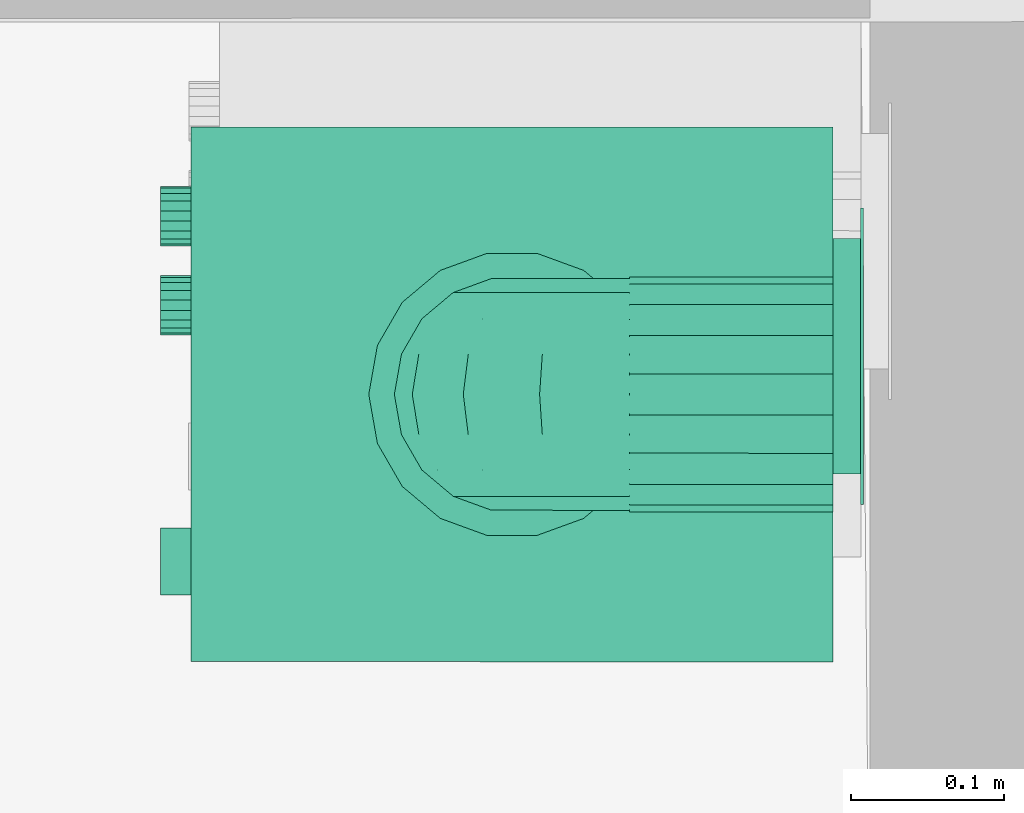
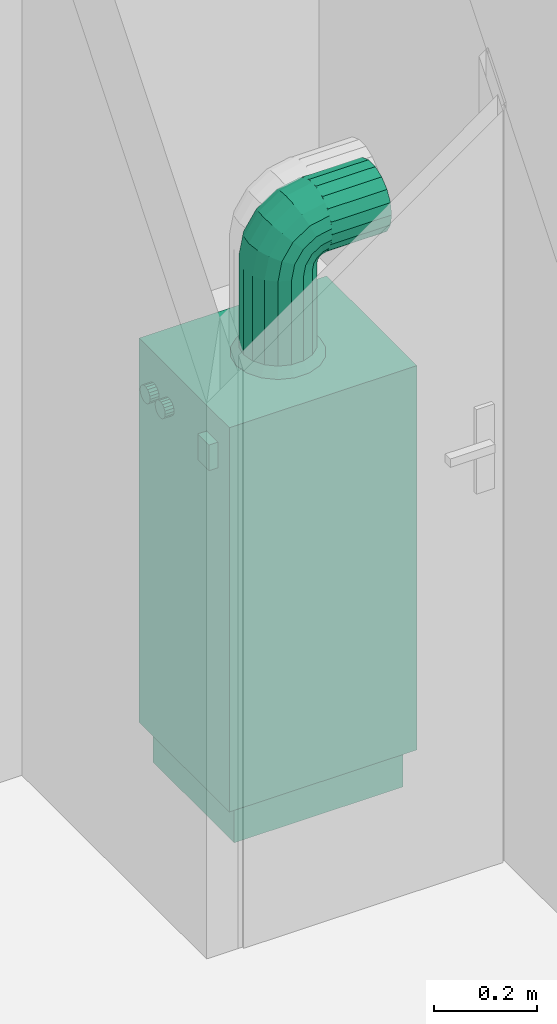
# One storey, part 122 of 171: 1 distribution element.
"""IFC2X3 building model written with IfcOpenShell, lengths in millimetres."""

from ifc_helpers import new_model, entity, si_unit, converted_unit, derived_unit, money_unit, direction, frame, origin_with_axes, place, context, subcontext, project, spatial, open_shell, faceted_brep, surface_model, source, transform, mapped, type_object, element, save


model = new_model("IFC2X3")

# Units and contexts
model_context = context("Model", 3, precision=0.01, world=origin_with_axes(), true_north=direction((0.0, 1.0)))
body_context = subcontext(model_context, "Body", "Model", "MODEL_VIEW")
ifc_project = project(units=[si_unit("LENGTHUNIT", "METRE", prefix="MILLI"), si_unit("AREAUNIT", "SQUARE_METRE"), si_unit("VOLUMEUNIT", "CUBIC_METRE"), converted_unit("PLANEANGLEUNIT", "DEGREE", entity("IfcPlaneAngleMeasure", 0.0174532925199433), si_unit("PLANEANGLEUNIT", "RADIAN"), dimensions=[0, 0, 0, 0, 0, 0, 0]), money_unit("USD"), converted_unit("TIMEUNIT", "Year", entity("IfcTimeMeasure", 31557600.0), si_unit("TIMEUNIT", "SECOND"), dimensions=[0, 0, 1, 0, 0, 0, 0]), si_unit("MASSUNIT", "GRAM", prefix="KILO"), si_unit("THERMODYNAMICTEMPERATUREUNIT", "DEGREE_CELSIUS"), si_unit("LUMINOUSINTENSITYUNIT", "LUMEN"), si_unit("ENERGYUNIT", "JOULE", prefix="MEGA"), derived_unit("THERMALCONDUCTANCEUNIT", [(si_unit("POWERUNIT", "WATT"), 1), (si_unit("LENGTHUNIT", "METRE"), -1), (si_unit("THERMODYNAMICTEMPERATUREUNIT", "KELVIN"), -1)]), derived_unit("SPECIFICHEATCAPACITYUNIT", [(si_unit("ENERGYUNIT", "JOULE"), 1), (si_unit("MASSUNIT", "GRAM", prefix="KILO"), -1), (si_unit("THERMODYNAMICTEMPERATUREUNIT", "KELVIN"), -1)]), derived_unit("MASSDENSITYUNIT", [(si_unit("MASSUNIT", "GRAM", prefix="KILO"), 1), (si_unit("VOLUMEUNIT", "CUBIC_METRE"), -1)])], contexts=[model_context])

# Site, building, storey
site_placement = place(None, origin_with_axes())
site = spatial("IfcSite", under=ifc_project, at=site_placement, Name="Site", CompositionType="ELEMENT")
building_placement = place(site_placement, origin_with_axes())
building = spatial("IfcBuilding", under=site, at=building_placement, Name="Bâtiment", CompositionType="ELEMENT")
storey_placement = place(building_placement, frame((0.0, 0.0, 3000.0), z_axis=(0.0, 0.0, 1.0), x_axis=(1.0, 0.0, 0.0)))
storey = spatial("IfcBuildingStorey", under=building, at=storey_placement, Name="rdc", CompositionType="ELEMENT", Elevation=3000.0)

# Distribution element
distribution_element_type = type_object("IfcDistributionElementType", Name="Chaudière à gaz 27")
shared_shape = source(origin_with_axes(), body_context, "Body", "SurfaceModel", [
    surface_model("IfcShellBasedSurfaceModel", [(-200.0, 420.0, 34.90909090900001), (-200.0, 438.0, 34.90909090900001), (-180.0709335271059, 438.0, 37.53280228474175), (-180.0709335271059, 420.0, 37.53280228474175), (-219.9290664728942, 420.0, 37.53280228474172), (-219.9290664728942, 438.0, 37.53280228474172), (-161.5, 438.0, 45.22513481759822), (-161.5, 420.0, 45.22513481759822), (-238.5000000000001, 420.0, 45.22513481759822), (-238.5000000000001, 438.0, 45.22513481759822), (-145.5527778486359, 438.0, 57.46186875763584), (-145.5527778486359, 420.0, 57.46186875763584), (-254.4472221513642, 420.0, 57.46186875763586), (-254.4472221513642, 438.0, 57.46186875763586), (-133.3160439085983, 438.0, 73.409090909), (-133.3160439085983, 420.0, 73.409090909), (-266.6839560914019, 420.0, 73.40909090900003), (-266.6839560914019, 438.0, 73.40909090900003), (-125.6237113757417, 438.0, 91.9800244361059), (-125.6237113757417, 420.0, 91.9800244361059), (-274.3762886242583, 420.0, 91.98002443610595), (-274.3762886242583, 438.0, 91.98002443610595), (-123.0, 438.0, 111.909090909), (-123.0, 420.0, 111.909090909), (-277.0, 420.0, 111.909090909), (-277.0, 438.0, 111.909090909), (-125.6237113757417, 438.0, 131.8381573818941), (-125.6237113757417, 420.0, 131.8381573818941), (-274.3762886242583, 420.0, 131.8381573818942), (-274.3762886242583, 438.0, 131.8381573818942), (-133.3160439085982, 438.0, 150.409090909), (-133.3160439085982, 420.0, 150.409090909), (-266.6839560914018, 420.0, 150.4090909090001), (-266.6839560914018, 438.0, 150.4090909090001), (-145.5527778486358, 438.0, 166.3563130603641), (-145.5527778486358, 420.0, 166.3563130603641), (-254.4472221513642, 420.0, 166.3563130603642), (-254.4472221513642, 438.0, 166.3563130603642), (-161.5, 438.0, 178.5930470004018), (-161.5, 420.0, 178.5930470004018), (-238.5, 420.0, 178.5930470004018), (-238.5, 438.0, 178.5930470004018), (-180.0709335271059, 438.0, 186.2853795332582), (-180.0709335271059, 420.0, 186.2853795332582), (-219.929066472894, 420.0, 186.2853795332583), (-219.929066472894, 438.0, 186.2853795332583), (-200.0, 438.0, 188.909090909), (-200.0, 420.0, 188.909090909)], [open_shell([[[0, 1, 2, 3]], [[4, 5, 1, 0]], [[3, 2, 6, 7]], [[8, 9, 5, 4]], [[7, 6, 10, 11]], [[12, 13, 9, 8]], [[11, 10, 14, 15]], [[16, 17, 13, 12]], [[15, 14, 18, 19]], [[20, 21, 17, 16]], [[19, 18, 22, 23]], [[24, 25, 21, 20]], [[23, 22, 26, 27]], [[28, 29, 25, 24]], [[27, 26, 30, 31]], [[32, 33, 29, 28]], [[31, 30, 34, 35]], [[36, 37, 33, 32]], [[35, 34, 38, 39]], [[40, 41, 37, 36]], [[39, 38, 42, 43]], [[44, 45, 41, 40]], [[43, 42, 46, 47]], [[47, 46, 45, 44]]])]),
    faceted_brep([(-200.0, 438.0, 14.909090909), (-200.0, 440.0, 14.909090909), (-174.8945526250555, 440.0, 18.21428575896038), (-174.8945526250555, 438.0, 18.21428575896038), (-225.1054473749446, 438.0, 18.21428575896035), (-225.1054473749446, 440.0, 18.21428575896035), (-248.5000000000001, 440.0, 27.90462674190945), (-268.5893577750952, 440.0, 43.31973313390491), (-284.0044641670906, 440.0, 63.40909090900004), (-293.6948051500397, 440.0, 86.80364353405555), (-297.0000000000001, 440.0, 111.909090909), (-293.6948051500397, 440.0, 137.0145382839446), (-284.0044641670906, 440.0, 160.4090909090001), (-268.5893577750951, 440.0, 180.4984486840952), (-248.5, 440.0, 195.9135550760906), (-225.1054473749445, 440.0, 205.6038960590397), (-199.9999999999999, 440.0, 208.909090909), (-174.8945526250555, 440.0, 205.6038960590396), (-151.5, 440.0, 195.9135550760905), (-131.4106422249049, 440.0, 180.4984486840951), (-115.9955358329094, 440.0, 160.409090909), (-106.3051948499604, 440.0, 137.0145382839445), (-103.0, 440.0, 111.909090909), (-106.3051948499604, 440.0, 86.80364353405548), (-115.9955358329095, 440.0, 63.40909090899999), (-131.4106422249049, 440.0, 43.31973313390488), (-151.5, 440.0, 27.90462674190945), (-200.0, 440.0, 34.90909090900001), (-180.0709335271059, 440.0, 37.53280228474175), (-161.5, 440.0, 45.22513481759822), (-145.5527778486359, 440.0, 57.46186875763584), (-133.3160439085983, 440.0, 73.409090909), (-125.6237113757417, 440.0, 91.9800244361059), (-123.0, 440.0, 111.909090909), (-125.6237113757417, 440.0, 131.8381573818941), (-133.3160439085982, 440.0, 150.409090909), (-145.5527778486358, 440.0, 166.3563130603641), (-161.5, 440.0, 178.5930470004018), (-180.0709335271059, 440.0, 186.2853795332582), (-200.0, 440.0, 188.909090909), (-219.929066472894, 440.0, 186.2853795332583), (-238.5, 440.0, 178.5930470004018), (-254.4472221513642, 440.0, 166.3563130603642), (-266.6839560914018, 440.0, 150.4090909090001), (-274.3762886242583, 440.0, 131.8381573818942), (-277.0, 440.0, 111.909090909), (-274.3762886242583, 440.0, 91.98002443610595), (-266.6839560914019, 440.0, 73.40909090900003), (-254.4472221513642, 440.0, 57.46186875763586), (-238.5000000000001, 440.0, 45.22513481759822), (-219.9290664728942, 440.0, 37.53280228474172), (-151.5, 438.0, 27.90462674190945), (-131.4106422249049, 438.0, 43.31973313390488), (-115.9955358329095, 438.0, 63.40909090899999), (-106.3051948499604, 438.0, 86.80364353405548), (-103.0, 438.0, 111.909090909), (-106.3051948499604, 438.0, 137.0145382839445), (-115.9955358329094, 438.0, 160.409090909), (-131.4106422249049, 438.0, 180.4984486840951), (-151.5, 438.0, 195.9135550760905), (-174.8945526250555, 438.0, 205.6038960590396), (-199.9999999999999, 438.0, 208.909090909), (-225.1054473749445, 438.0, 205.6038960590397), (-248.5, 438.0, 195.9135550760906), (-268.5893577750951, 438.0, 180.4984486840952), (-284.0044641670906, 438.0, 160.4090909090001), (-293.6948051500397, 438.0, 137.0145382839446), (-297.0000000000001, 438.0, 111.909090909), (-293.6948051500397, 438.0, 86.80364353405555), (-284.0044641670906, 438.0, 63.40909090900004), (-268.5893577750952, 438.0, 43.31973313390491), (-248.5000000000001, 438.0, 27.90462674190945), (-200.0, 438.0, 34.90909090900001), (-219.9290664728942, 438.0, 37.53280228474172), (-238.5000000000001, 438.0, 45.22513481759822), (-254.4472221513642, 438.0, 57.46186875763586), (-266.6839560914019, 438.0, 73.40909090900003), (-274.3762886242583, 438.0, 91.98002443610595), (-277.0, 438.0, 111.909090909), (-274.3762886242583, 438.0, 131.8381573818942), (-266.6839560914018, 438.0, 150.4090909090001), (-254.4472221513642, 438.0, 166.3563130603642), (-238.5, 438.0, 178.5930470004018), (-219.929066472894, 438.0, 186.2853795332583), (-200.0, 438.0, 188.909090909), (-180.0709335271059, 438.0, 186.2853795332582), (-161.5, 438.0, 178.5930470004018), (-145.5527778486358, 438.0, 166.3563130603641), (-133.3160439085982, 438.0, 150.409090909), (-125.6237113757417, 438.0, 131.8381573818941), (-123.0, 438.0, 111.909090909), (-125.6237113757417, 438.0, 91.9800244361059), (-133.3160439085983, 438.0, 73.409090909), (-145.5527778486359, 438.0, 57.46186875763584), (-161.5, 438.0, 45.22513481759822), (-180.0709335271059, 438.0, 37.53280228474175)], [[[0, 1, 2, 3]], [[4, 5, 1, 0]], [[1, 5, 6, 7, 8, 9, 10, 11, 12, 13, 14, 15, 16, 17, 18, 19, 20, 21, 22, 23, 24, 25, 26, 2], [27, 28, 29, 30, 31, 32, 33, 34, 35, 36, 37, 38, 39, 40, 41, 42, 43, 44, 45, 46, 47, 48, 49, 50]], [[3, 2, 26, 51]], [[0, 3, 51, 52, 53, 54, 55, 56, 57, 58, 59, 60, 61, 62, 63, 64, 65, 66, 67, 68, 69, 70, 71, 4], [72, 73, 74, 75, 76, 77, 78, 79, 80, 81, 82, 83, 84, 85, 86, 87, 88, 89, 90, 91, 92, 93, 94, 95]], [[71, 6, 5, 4]], [[70, 7, 6, 71]], [[69, 8, 7, 70]], [[68, 9, 8, 69]], [[67, 10, 9, 68]], [[66, 11, 10, 67]], [[65, 12, 11, 66]], [[64, 13, 12, 65]], [[63, 14, 13, 64]], [[62, 15, 14, 63]], [[61, 16, 15, 62]], [[60, 17, 16, 61]], [[59, 18, 17, 60]], [[58, 19, 18, 59]], [[57, 20, 19, 58]], [[56, 21, 20, 57]], [[55, 22, 21, 56]], [[54, 23, 22, 55]], [[53, 24, 23, 54]], [[52, 25, 24, 53]], [[51, 26, 25, 52]], [[95, 28, 27, 72]], [[94, 29, 28, 95]], [[93, 30, 29, 94]], [[92, 31, 30, 93]], [[91, 32, 31, 92]], [[90, 33, 32, 91]], [[89, 34, 33, 90]], [[88, 35, 34, 89]], [[87, 36, 35, 88]], [[86, 37, 36, 87]], [[85, 38, 37, 86]], [[84, 39, 38, 85]], [[83, 40, 39, 84]], [[82, 41, 40, 83]], [[81, 42, 41, 82]], [[80, 43, 42, 81]], [[79, 44, 43, 80]], [[78, 45, 44, 79]], [[77, 46, 45, 78]], [[76, 47, 46, 77]], [[75, 48, 47, 76]], [[74, 49, 48, 75]], [[73, 50, 49, 74]], [[72, 27, 50, 73]]]),
    faceted_brep([(-332.5, 21.0, 0.0), (-332.5, 399.0, 0.0), (-17.5, 399.0, 0.0), (-17.5, 21.0, 0.0), (-332.5, 21.0, 90.9090909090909), (-332.5, 399.0, 90.9090909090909), (-17.5, 399.0, 90.9090909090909), (-17.5, 21.0, 90.9090909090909)], [[[0, 1, 2, 3]], [[0, 4, 5, 1]], [[1, 5, 6, 2]], [[2, 6, 7, 3]], [[3, 7, 4, 0]], [[7, 6, 5, 4]]]),
    faceted_brep([(0.0, 420.0, 90.9090909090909), (-350.0, 420.0, 90.90909090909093), (-349.9999999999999, 420.0, 1000.0), (0.0, 420.0, 1000.0), (0.0, 0.0, 90.9090909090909), (-350.0, 0.0, 90.90909090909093), (-349.9999999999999, 0.0, 818.1818181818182), (-349.9999999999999, 21.0, 818.1818181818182), (-349.9999999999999, 21.0, 1000.0), (0.0, 21.0, 1000.0), (0.0, 21.0, 818.1818181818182), (0.0, 0.0, 818.1818181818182)], [[[0, 1, 2, 3]], [[4, 5, 1, 0]], [[1, 5, 6, 7, 8, 2]], [[3, 2, 8, 9]], [[0, 3, 9, 10, 11, 4]], [[11, 6, 5, 4]], [[10, 7, 6, 11]], [[9, 8, 7, 10]]]),
    faceted_brep([(-350.0, 0.0, 818.1818181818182), (-350.0, 21.0, 818.1818181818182), (0.0, 21.0, 818.1818181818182), (0.0, 0.0, 818.1818181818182), (-350.0, 0.0, 1000.0), (-350.0, 21.0, 1000.0), (0.0, 21.0, 1000.0), (0.0, 0.0, 1000.0)], [[[0, 1, 2, 3]], [[0, 4, 5, 1]], [[1, 5, 6, 2]], [[2, 6, 7, 3]], [[3, 7, 4, 0]], [[7, 6, 5, 4]]]),
    faceted_brep([(-251.6051342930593, 0.0, 902.4405174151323), (-252.7777777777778, 0.0, 909.0909090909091), (-251.6051342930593, 0.0, 915.741300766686), (-248.2286419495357, 0.0, 921.5895570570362), (-243.0555555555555, 0.0, 925.9302919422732), (-236.709825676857, 0.0, 928.2399487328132), (-229.9568409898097, 0.0, 928.2399487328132), (-223.6111111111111, 0.0, 925.9302919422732), (-218.438024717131, 0.0, 921.5895570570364), (-215.0615323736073, 0.0, 915.741300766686), (-213.8888888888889, 0.0, 909.0909090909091), (-215.0615323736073, 0.0, 902.4405174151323), (-218.438024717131, 0.0, 896.5922611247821), (-223.6111111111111, 0.0, 892.2515262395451), (-229.9568409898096, 0.0, 889.9418694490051), (-236.709825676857, 0.0, 889.9418694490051), (-243.0555555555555, 0.0, 892.2515262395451), (-248.2286419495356, 0.0, 896.592261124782), (-251.6051342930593, -19.99999999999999, 902.4405174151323), (-252.7777777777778, -19.99999999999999, 909.0909090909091), (-251.6051342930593, -19.99999999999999, 915.741300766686), (-248.2286419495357, -19.99999999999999, 921.5895570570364), (-243.0555555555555, -19.99999999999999, 925.9302919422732), (-236.709825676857, -19.99999999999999, 928.2399487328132), (-229.9568409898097, -19.99999999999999, 928.2399487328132), (-223.6111111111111, -19.99999999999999, 925.9302919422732), (-218.438024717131, -19.99999999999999, 921.5895570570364), (-215.0615323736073, -19.99999999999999, 915.741300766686), (-213.8888888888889, -19.99999999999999, 909.0909090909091), (-215.0615323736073, -19.99999999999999, 902.4405174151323), (-218.438024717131, -19.99999999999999, 896.5922611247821), (-223.6111111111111, -19.99999999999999, 892.2515262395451), (-229.9568409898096, -19.99999999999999, 889.9418694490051), (-236.709825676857, -19.99999999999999, 889.9418694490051), (-243.0555555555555, -19.99999999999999, 892.2515262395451), (-248.2286419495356, -19.99999999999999, 896.592261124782)], [[[0, 1, 2, 3, 4, 5, 6, 7, 8, 9, 10, 11, 12, 13, 14, 15, 16, 17]], [[0, 18, 19, 1]], [[1, 19, 20, 2]], [[2, 20, 21, 3]], [[3, 21, 22, 4]], [[4, 22, 23, 5]], [[5, 23, 24, 6]], [[6, 24, 25, 7]], [[7, 25, 26, 8]], [[8, 26, 27, 9]], [[9, 27, 28, 10]], [[10, 28, 29, 11]], [[11, 29, 30, 12]], [[12, 30, 31, 13]], [[13, 31, 32, 14]], [[14, 32, 33, 15]], [[15, 33, 34, 16]], [[16, 34, 35, 17]], [[17, 35, 18, 0]], [[18, 35, 34, 33, 32, 31, 30, 29, 28, 27, 26, 25, 24, 23, 22, 21, 20, 19]]]),
    faceted_brep([(-309.9384676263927, 0.0, 902.4405174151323), (-311.1111111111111, 0.0, 909.0909090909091), (-309.9384676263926, 0.0, 915.741300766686), (-306.561975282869, 0.0, 921.5895570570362), (-301.3888888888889, 0.0, 925.9302919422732), (-295.0431590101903, 0.0, 928.2399487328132), (-288.290174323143, 0.0, 928.2399487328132), (-281.9444444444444, 0.0, 925.9302919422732), (-276.7713580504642, 0.0, 921.5895570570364), (-273.3948657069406, 0.0, 915.741300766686), (-272.2222222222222, 0.0, 909.0909090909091), (-273.3948657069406, 0.0, 902.4405174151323), (-276.7713580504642, 0.0, 896.5922611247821), (-281.9444444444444, 0.0, 892.2515262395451), (-288.290174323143, 0.0, 889.9418694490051), (-295.0431590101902, 0.0, 889.9418694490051), (-301.3888888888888, 0.0, 892.2515262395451), (-306.561975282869, 0.0, 896.592261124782), (-309.9384676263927, -19.99999999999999, 902.4405174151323), (-311.1111111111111, -19.99999999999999, 909.0909090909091), (-309.9384676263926, -19.99999999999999, 915.741300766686), (-306.561975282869, -19.99999999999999, 921.5895570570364), (-301.3888888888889, -19.99999999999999, 925.9302919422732), (-295.0431590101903, -19.99999999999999, 928.2399487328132), (-288.290174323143, -19.99999999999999, 928.2399487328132), (-281.9444444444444, -19.99999999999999, 925.9302919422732), (-276.7713580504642, -19.99999999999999, 921.5895570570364), (-273.3948657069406, -19.99999999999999, 915.741300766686), (-272.2222222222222, -19.99999999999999, 909.0909090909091), (-273.3948657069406, -19.99999999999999, 902.4405174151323), (-276.7713580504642, -19.99999999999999, 896.5922611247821), (-281.9444444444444, -19.99999999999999, 892.2515262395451), (-288.290174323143, -19.99999999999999, 889.9418694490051), (-295.0431590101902, -19.99999999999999, 889.9418694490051), (-301.3888888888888, -19.99999999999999, 892.2515262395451), (-306.561975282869, -19.99999999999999, 896.592261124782)], [[[0, 1, 2, 3, 4, 5, 6, 7, 8, 9, 10, 11, 12, 13, 14, 15, 16, 17]], [[0, 18, 19, 1]], [[1, 19, 20, 2]], [[2, 20, 21, 3]], [[3, 21, 22, 4]], [[4, 22, 23, 5]], [[5, 23, 24, 6]], [[6, 24, 25, 7]], [[7, 25, 26, 8]], [[8, 26, 27, 9]], [[9, 27, 28, 10]], [[10, 28, 29, 11]], [[11, 29, 30, 12]], [[12, 30, 31, 13]], [[13, 31, 32, 14]], [[14, 32, 33, 15]], [[15, 33, 34, 16]], [[16, 34, 35, 17]], [[17, 35, 18, 0]], [[18, 35, 34, 33, 32, 31, 30, 29, 28, 27, 26, 25, 24, 23, 22, 21, 20, 19]]]),
    faceted_brep([(-87.5, 0.0, 878.7878787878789), (-87.5, 0.0, 939.3939393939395), (-43.75, 0.0, 939.3939393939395), (-43.75, 0.0, 878.7878787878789), (-87.5, -20.0, 878.7878787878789), (-87.5, -19.99999999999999, 939.3939393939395), (-43.75, -19.99999999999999, 939.3939393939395), (-43.75, -20.0, 878.7878787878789)], [[[0, 1, 2, 3]], [[0, 4, 5, 1]], [[1, 5, 6, 2]], [[2, 6, 7, 3]], [[3, 7, 4, 0]], [[7, 6, 5, 4]]]),
    surface_model("IfcShellBasedSurfaceModel", [(-148.6644489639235, 282.356331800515, 1220.0), (-148.6644489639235, 282.356331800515, 1020.0), (-175.0, 287.0, 1020.0), (-175.0, 287.0, 1220.0), (-125.5053540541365, 268.9854221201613, 1220.0), (-125.5053540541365, 268.9854221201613, 1020.0), (-142.9356115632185, 298.0961831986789, 1000.0), (-175.0, 303.7499999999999, 1000.0), (-201.3355510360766, 282.356331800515, 1020.0), (-201.3355510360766, 282.356331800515, 1220.0), (-108.3160439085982, 248.5, 1220.0), (-108.3160439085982, 248.5, 1020.0), (-114.7386615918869, 281.8166665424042, 1000.0), (-207.0643884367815, 298.0961831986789, 1000.0), (-224.4946459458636, 268.9854221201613, 1020.0), (-224.4946459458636, 268.9854221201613, 1220.0), (-99.16980301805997, 223.3709096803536, 1220.0), (-99.16980301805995, 223.3709096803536, 1020.0), (-93.81011839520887, 256.8749999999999, 1000.0), (-235.2613384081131, 281.8166665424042, 1000.0), (-241.6839560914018, 248.4999999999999, 1020.0), (-241.6839560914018, 248.4999999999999, 1220.0), (-99.16980301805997, 196.6290903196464, 1220.0), (-99.16980301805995, 196.6290903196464, 1020.0), (-82.6742731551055, 226.2795166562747, 1000.0), (-256.1898816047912, 256.8749999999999, 1000.0), (-250.83019698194, 223.3709096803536, 1020.0), (-250.8301969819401, 223.3709096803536, 1220.0), (-108.3160439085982, 171.5, 1220.0), (-108.3160439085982, 171.5, 1020.0), (-82.67427315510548, 193.7204833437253, 1000.0), (-267.3257268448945, 226.2795166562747, 1000.0), (-250.83019698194, 196.6290903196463, 1020.0), (-250.83019698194, 196.6290903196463, 1220.0), (-125.5053540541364, 151.0145778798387, 1220.0), (-125.5053540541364, 151.0145778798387, 1020.0), (-93.81011839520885, 163.125, 1000.0), (-267.3257268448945, 193.7204833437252, 1000.0), (-241.6839560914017, 171.4999999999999, 1020.0), (-241.6839560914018, 171.4999999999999, 1220.0), (-148.6644489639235, 137.643668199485, 1220.0), (-148.6644489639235, 137.643668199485, 1020.0), (-114.7386615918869, 138.1833334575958, 1000.0), (-256.1898816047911, 163.1249999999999, 1000.0), (-224.4946459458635, 151.0145778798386, 1020.0), (-224.4946459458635, 151.0145778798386, 1220.0), (-175.0, 133.0, 1220.0), (-175.0, 133.0, 1020.0), (-142.9356115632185, 121.9038168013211, 1000.0), (-235.261338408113, 138.1833334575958, 1000.0), (-201.3355510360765, 137.643668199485, 1020.0), (-201.3355510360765, 137.643668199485, 1220.0), (-175.0, 116.25, 1000.0), (-207.0643884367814, 121.9038168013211, 1000.0)], [open_shell([[[0, 1, 2, 3]], [[4, 5, 1, 0]], [[1, 6, 7, 2]], [[3, 2, 8, 9]], [[10, 11, 5, 4]], [[5, 12, 6, 1]], [[2, 7, 13, 8]], [[9, 8, 14, 15]], [[16, 17, 11, 10]], [[11, 18, 12, 5]], [[8, 13, 19, 14]], [[15, 14, 20, 21]], [[22, 23, 17, 16]], [[17, 24, 18, 11]], [[14, 19, 25, 20]], [[21, 20, 26, 27]], [[28, 29, 23, 22]], [[23, 30, 24, 17]], [[20, 25, 31, 26]], [[27, 26, 32, 33]], [[34, 35, 29, 28]], [[29, 36, 30, 23]], [[26, 31, 37, 32]], [[33, 32, 38, 39]], [[40, 41, 35, 34]], [[35, 42, 36, 29]], [[32, 37, 43, 38]], [[39, 38, 44, 45]], [[46, 47, 41, 40]], [[41, 48, 42, 35]], [[38, 43, 49, 44]], [[45, 44, 50, 51]], [[51, 50, 47, 46]], [[47, 52, 48, 41]], [[44, 49, 53, 50]], [[50, 53, 52, 47]]])]),
    faceted_brep([(-250.83019698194, 196.6290903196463, 1220.0), (-250.83019698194, 203.5081662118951, 1254.583449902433), (-250.83019698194, 228.2143857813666, 1244.349798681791), (-250.83019698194, 223.3709096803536, 1220.0), (-241.6839560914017, 171.4999999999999, 1220.0), (-241.6839560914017, 180.2919139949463, 1264.199936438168), (-250.83019698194, 223.0981169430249, 1283.901883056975), (-250.83019698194, 242.0074387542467, 1264.992561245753), (-241.6839560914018, 248.4999999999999, 1220.0), (-241.6839560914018, 251.4306379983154, 1234.733312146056), (-224.4946459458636, 268.9854221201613, 1220.0), (-201.3355510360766, 282.356331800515, 1220.0), (-175.0, 287.0, 1220.0), (-148.6644489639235, 282.356331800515, 1220.0), (-125.5053540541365, 268.9854221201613, 1220.0), (-108.3160439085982, 248.5, 1220.0), (-99.16980301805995, 223.3709096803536, 1220.0), (-99.16980301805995, 196.6290903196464, 1220.0), (-108.3160439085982, 171.5, 1220.0), (-125.5053540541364, 151.0145778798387, 1220.0), (-148.6644489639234, 137.643668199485, 1220.0), (-175.0, 132.9999999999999, 1220.0), (-201.3355510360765, 137.643668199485, 1220.0), (-224.4946459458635, 151.0145778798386, 1220.0), (-224.4946459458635, 161.3658517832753, 1272.039368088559), (-241.6839560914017, 205.3291667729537, 1301.670833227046), (-250.83019698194, 252.4165500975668, 1303.491833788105), (-250.83019698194, 262.6502013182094, 1278.785614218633), (-241.6839560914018, 259.7763889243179, 1247.223611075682), (-224.4946459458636, 270.3567002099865, 1226.893880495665), (-201.3355510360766, 282.7098099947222, 1221.777054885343), (-148.6644489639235, 282.7098099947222, 1221.777054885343), (-125.5053540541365, 270.3567002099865, 1226.893880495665), (-108.3160439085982, 251.4306379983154, 1234.733312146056), (-99.16980301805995, 228.2143857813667, 1244.349798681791), (-99.16980301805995, 203.5081662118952, 1254.583449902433), (-108.3160439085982, 180.2919139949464, 1264.199936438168), (-125.5053540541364, 161.3658517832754, 1272.039368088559), (-148.6644489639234, 149.0127419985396, 1277.15619369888), (-175.0, 144.7225519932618, 1278.933248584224), (-201.3355510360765, 149.0127419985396, 1277.15619369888), (-224.4946459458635, 190.8437858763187, 1316.156214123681), (-241.6839560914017, 242.8000635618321, 1326.708086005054), (-250.83019698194, 287.0000000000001, 1310.370909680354), (-250.83019698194, 287.0000000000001, 1283.629090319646), (-241.6839560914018, 272.266687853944, 1255.569362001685), (-224.4946459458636, 274.2617698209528, 1232.738230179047), (-201.3355510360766, 283.7164307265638, 1223.283569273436), (-148.6644489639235, 283.7164307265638, 1223.283569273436), (-125.5053540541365, 274.2617698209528, 1232.738230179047), (-108.3160439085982, 259.7763889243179, 1247.223611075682), (-99.16980301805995, 242.0074387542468, 1264.992561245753), (-99.16980301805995, 223.098116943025, 1283.901883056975), (-108.3160439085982, 205.3291667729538, 1301.670833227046), (-125.5053540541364, 190.8437858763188, 1316.156214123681), (-148.6644489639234, 181.3891249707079, 1325.610875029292), (-175.0, 178.1055556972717, 1328.894444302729), (-201.3355510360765, 181.3891249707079, 1325.610875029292), (-224.4946459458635, 234.9606319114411, 1345.634148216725), (-241.6839560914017, 287.0000000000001, 1335.5), (-241.6839560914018, 287.0, 1258.5), (-224.4946459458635, 287.0000000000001, 1355.985422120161), (-201.3355510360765, 287.0000000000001, 1369.356331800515), (-175.0, 287.0000000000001, 1374.0), (-148.6644489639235, 287.0000000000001, 1369.356331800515), (-125.5053540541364, 287.0000000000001, 1355.985422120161), (-108.3160439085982, 287.0000000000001, 1335.5), (-99.16980301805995, 287.0000000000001, 1310.370909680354), (-99.16980301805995, 287.0000000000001, 1283.629090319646), (-108.3160439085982, 287.0, 1258.5), (-125.5053540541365, 287.0, 1238.014577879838), (-148.6644489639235, 287.0, 1224.643668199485), (-201.3355510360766, 287.0, 1224.643668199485), (-224.4946459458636, 287.0, 1238.014577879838), (-224.4946459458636, 280.1061195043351, 1236.643299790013), (-201.3355510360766, 285.2229451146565, 1224.290190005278), (-148.6644489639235, 285.2229451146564, 1224.290190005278), (-125.5053540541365, 280.1061195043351, 1236.643299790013), (-108.3160439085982, 272.266687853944, 1255.569362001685), (-99.16980301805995, 262.6502013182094, 1278.785614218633), (-99.16980301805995, 252.4165500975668, 1303.491833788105), (-108.3160439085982, 242.8000635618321, 1326.708086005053), (-125.5053540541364, 234.9606319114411, 1345.634148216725), (-148.6644489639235, 229.8438063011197, 1357.98725800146), (-175.0, 228.0667514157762, 1362.277448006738), (-201.3355510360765, 229.8438063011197, 1357.98725800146)], [[[0, 1, 2, 3]], [[1, 0, 4, 5]], [[1, 6, 7, 2]], [[8, 3, 2, 9]], [[4, 0, 3, 8, 10, 11, 12, 13, 14, 15, 16, 17, 18, 19, 20, 21, 22, 23]], [[5, 4, 23, 24]], [[6, 1, 5, 25]], [[7, 6, 26, 27]], [[2, 7, 28, 9]], [[29, 10, 8, 9]], [[10, 29, 30, 11]], [[11, 30, 12]], [[31, 13, 12]], [[13, 31, 32, 14]], [[33, 15, 14, 32]], [[15, 33, 34, 16]], [[35, 17, 16, 34]], [[18, 17, 35, 36]], [[37, 19, 18, 36]], [[20, 19, 37, 38]], [[39, 21, 20, 38]], [[22, 21, 39, 40]], [[24, 23, 22, 40]], [[25, 5, 24, 41]], [[6, 25, 42, 26]], [[27, 26, 43, 44]], [[45, 28, 7, 27]], [[46, 29, 9, 28]], [[29, 46, 47, 30]], [[30, 47, 12]], [[48, 31, 12]], [[31, 48, 49, 32]], [[32, 49, 50, 33]], [[34, 33, 50, 51]], [[52, 35, 34, 51]], [[35, 52, 53, 36]], [[54, 37, 36, 53]], [[38, 37, 54, 55]], [[56, 39, 38, 55]], [[57, 40, 39, 56]], [[41, 24, 40, 57]], [[42, 25, 41, 58]], [[26, 42, 59, 43]], [[60, 44, 43, 59, 61, 62, 63, 64, 65, 66, 67, 68, 69, 70, 71, 12, 72, 73]], [[45, 27, 44, 60]], [[28, 45, 74, 46]], [[46, 74, 75, 47]], [[47, 75, 12]], [[76, 48, 12]], [[48, 76, 77, 49]], [[49, 77, 78, 50]], [[50, 78, 79, 51]], [[52, 51, 79, 80]], [[53, 52, 80, 81]], [[82, 54, 53, 81]], [[55, 54, 82, 83]], [[56, 55, 83, 84]], [[85, 57, 56, 84]], [[58, 41, 57, 85]], [[59, 42, 58, 61]], [[61, 58, 85, 62]], [[62, 85, 84, 63]], [[84, 83, 64, 63]], [[82, 65, 64, 83]], [[65, 82, 81, 66]], [[81, 80, 67, 66]], [[80, 79, 68, 67]], [[79, 78, 69, 68]], [[77, 70, 69, 78]], [[77, 76, 71, 70]], [[76, 12, 71]], [[75, 72, 12]], [[74, 73, 72, 75]], [[45, 60, 73, 74]]]),
    surface_model("IfcShellBasedSurfaceModel", [(-102.6436681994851, 420.0, 1323.335551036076), (-102.643668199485, 287.0, 1323.335551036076), (-97.99999999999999, 287.0, 1297.0), (-98.0, 420.0, 1297.0), (-116.0145778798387, 420.0, 1346.494645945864), (-116.0145778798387, 287.0, 1346.494645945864), (-102.643668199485, 287.0, 1270.664448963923), (-102.643668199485, 420.0, 1270.664448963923), (-136.5, 420.0, 1363.683956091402), (-136.5, 287.0, 1363.683956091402), (-116.0145778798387, 287.0, 1247.505354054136), (-116.0145778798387, 420.0, 1247.505354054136), (-161.6290903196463, 420.0, 1372.83019698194), (-161.6290903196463, 287.0, 1372.83019698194), (-136.5, 287.0, 1230.316043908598), (-136.5, 420.0, 1230.316043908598), (-188.3709096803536, 420.0, 1372.83019698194), (-188.3709096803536, 287.0, 1372.83019698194), (-161.6290903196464, 287.0, 1221.16980301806), (-161.6290903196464, 420.0, 1221.16980301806), (-213.5, 420.0, 1363.683956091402), (-213.5, 287.0, 1363.683956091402), (-188.3709096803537, 287.0, 1221.16980301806), (-188.3709096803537, 420.0, 1221.16980301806), (-233.9854221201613, 420.0, 1346.494645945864), (-233.9854221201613, 287.0, 1346.494645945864), (-213.5, 287.0, 1230.316043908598), (-213.5000000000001, 420.0, 1230.316043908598), (-247.356331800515, 420.0, 1323.335551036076), (-247.3563318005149, 287.0, 1323.335551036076), (-233.9854221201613, 287.0, 1247.505354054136), (-233.9854221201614, 420.0, 1247.505354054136), (-252.0, 420.0, 1297.0), (-252.0, 287.0, 1297.0), (-247.356331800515, 287.0, 1270.664448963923), (-247.356331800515, 420.0, 1270.664448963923)], [open_shell([[[0, 1, 2, 3]], [[4, 5, 1, 0]], [[3, 2, 6, 7]], [[8, 9, 5, 4]], [[7, 6, 10, 11]], [[12, 13, 9, 8]], [[11, 10, 14, 15]], [[16, 17, 13, 12]], [[15, 14, 18, 19]], [[20, 21, 17, 16]], [[19, 18, 22, 23]], [[24, 25, 21, 20]], [[23, 22, 26, 27]], [[28, 29, 25, 24]], [[27, 26, 30, 31]], [[32, 33, 29, 28]], [[31, 30, 34, 35]], [[35, 34, 33, 32]]])]),
])
distribution_element_placement = place(storey_placement, frame((2233572.202905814, -652831.4237934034, 0.0), z_axis=(0.0, 0.0, 1.0), x_axis=(-0.0001702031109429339, -0.9999999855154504, 0.0)))
element("IfcDistributionElement", 1, at=distribution_element_placement, inside=storey, type_object=distribution_element_type, Name="Obj.-003", context=body_context, shape_type="MappedRepresentation", body=[
    mapped(shared_shape, transform((0.0, 0.0, 0.0))),
])

save(model, "model.ifc")
